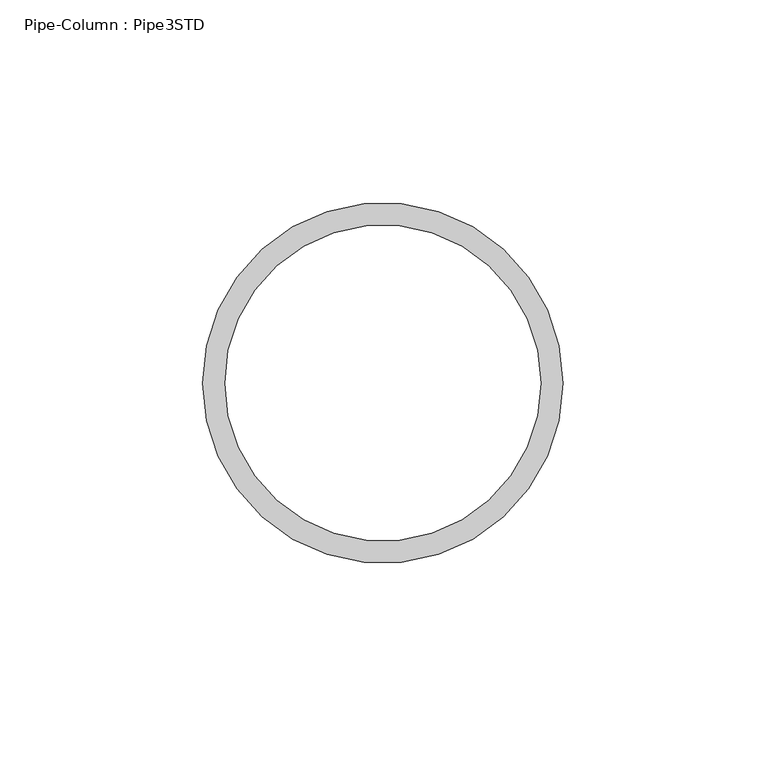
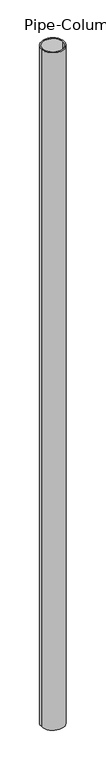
"""IFC4 building model written with IfcOpenShell, lengths in millimetres: column geometry, Pipe-Column : Pipe3STD."""

from ifc_helpers import new_model, si_unit, point, frame, origin, origin_2d, place, context, project, spatial, circle_curve, trimmed, segment, composite_curve, outline, extrude, source, transform, mapped, element, save


def pipe_column_pipe3std_0c963f21(model_context):
    return source(origin(), model_context, "Body", "SweptSolid", [
        extrude(outline(composite_curve([segment(trimmed(circle_curve(origin_2d(), 44.45), [point((-44.45, 0.0))], [point((44.45, 0.0))], False, "CARTESIAN"), True, "CONTINUOUS"), segment(trimmed(circle_curve(origin_2d(), 44.45), [point((44.45, 0.0))], [point((-44.45, 0.0))], False, "CARTESIAN"), True, "CONTINUOUS")], self_intersect=False), holes=[composite_curve([segment(trimmed(circle_curve(origin_2d(), 38.9636), [point((-38.9636, 0.0))], [point((38.9636, 0.0))], True, "CARTESIAN"), True, "CONTINUOUS"), segment(trimmed(circle_curve(origin_2d(), 38.9636), [point((38.9636, 0.0))], [point((-38.9636, 0.0))], True, "CARTESIAN"), True, "CONTINUOUS")], self_intersect=False)]), frame((0.0, 0.0, -1797.05), z_axis=(0.0, 0.0, 1.0), x_axis=(1.0, 0.0, 0.0)), (0.0, 0.0, 1.0), 2757.4875),
    ])


if __name__ == "__main__":
    model = new_model("IFC4")
    model_context = context("Model", 3, world=origin())
    ifc_project = project(units=[si_unit("LENGTHUNIT", "METRE", prefix="MILLI")], contexts=[model_context])
    site = spatial("IfcSite", under=ifc_project)
    building = spatial("IfcBuilding", under=site)
    placement = place(None, origin())
    pipe_column_pipe3std_shape = pipe_column_pipe3std_0c963f21(model_context)
    element("IfcColumn", 1, ObjectType="Pipe-Column : Pipe3STD", at=placement, inside=building, context=model_context, shape_type="MappedRepresentation", body=[
        mapped(pipe_column_pipe3std_shape, transform((0.0, 0.0, 0.0), x_axis=(1.0, 0.0, 0.0), y_axis=(0.0, 1.0, 0.0), z_axis=(0.0, 0.0, 1.0))),
    ])
    save(model, "model.ifc")
